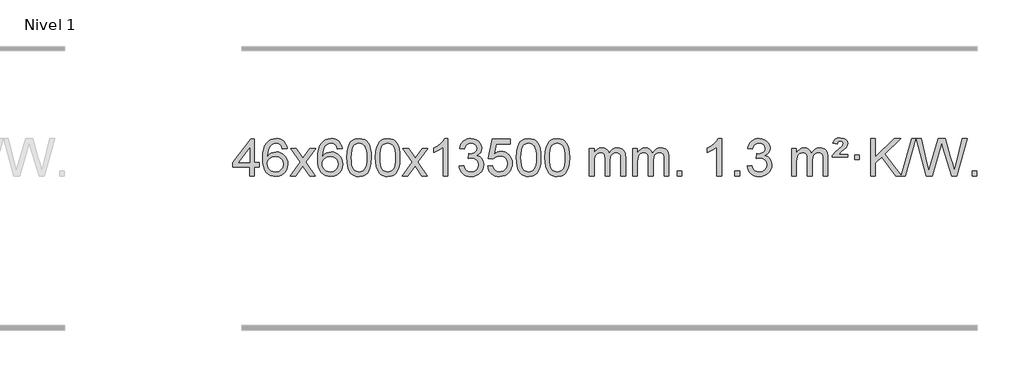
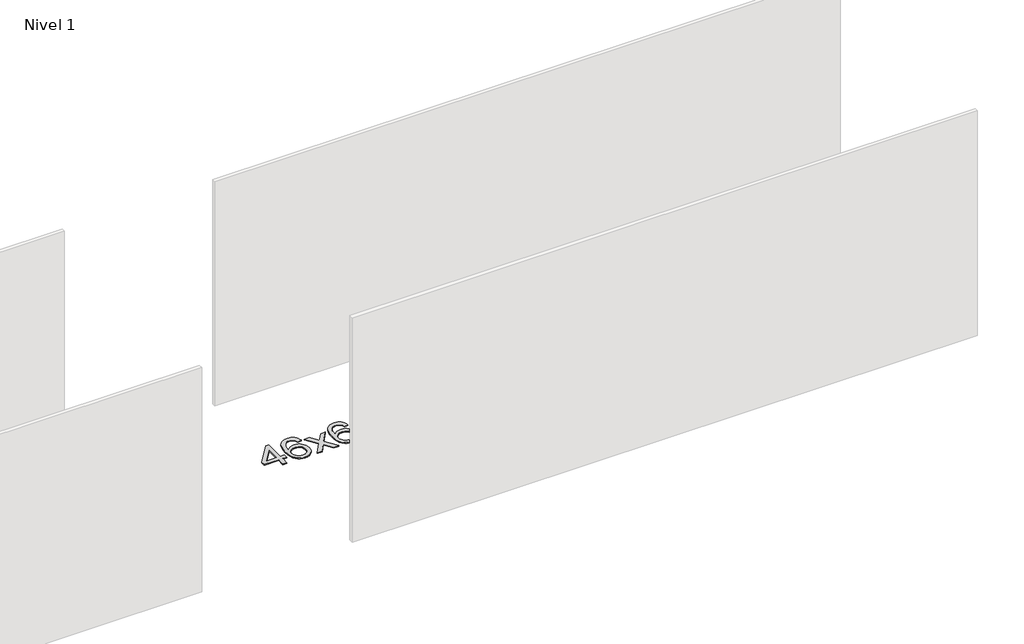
# One storey, part 12 of 12: 1 proxy.
"""IFC4 building model written with IfcOpenShell, lengths in millimetres."""

from ifc_helpers import new_model, si_unit, origin, origin_with_axes, place, context, project, spatial, polyline, outline, extrude, element, save

model = new_model("IFC4")

# Units and contexts
model_context = context("Model", 3, world=origin())
ifc_project = project(units=[si_unit("LENGTHUNIT", "METRE", prefix="MILLI")], contexts=[model_context])

# Site, building, storey
site = spatial("IfcSite", under=ifc_project)
building = spatial("IfcBuilding", under=site)
storey = spatial("IfcBuildingStorey", under=building, Name="Nivel 1", Elevation=0.0)

# Proxy
placement = place(None, origin())
element("IfcBuildingElementProxy", 1, Name="Texto de modelo 1", ObjectType="Texto de modelo 1", at=placement, inside=storey, context=model_context, shape_type="SweptSolid", body=[
    extrude(outline(polyline([(-1746.7519314, 2608.420547), (-1746.7519314, 2702.5983378), (-1928.8289935, 2702.5983378), (-1928.8289935, 2752.8264928), (-1734.1948926, 3003.9672682), (-1696.5237763, 3003.9672682), (-1696.5237763, 2752.8264928), (-1646.2956212, 2752.8264928), (-1646.2956212, 2702.5983378), (-1696.5237763, 2702.5983378), (-1696.5237763, 2608.420547), (-1746.7519314, 2608.420547)]), holes=[polyline([(-1746.7519314, 2752.8264928), (-1746.7519314, 2908.0236439), (-1867.0248183, 2752.8264928), (-1746.7519314, 2752.8264928)])]), origin_with_axes(), (0.0, 0.0, 1.0), 10.0),
    extrude(outline(polyline([(-1344.9266908, 2903.5109581), (-1395.1548459, 2897.2324387), (-1403.2482498, 2922.125787), (-1414.1866077, 2939.1219352), (-1436.970766, 2954.7937082), (-1464.5128647, 2960.0176325), (-1487.8611086, 2956.9764747), (-1509.8359265, 2947.8530012), (-1528.7082728, 2928.6372983), (-1544.1225284, 2902.1865829), (-1554.5335889, 2864.772984), (-1558.3963499, 2812.6686307), (-1538.2486793, 2836.1762902), (-1514.1033576, 2852.7432427), (-1487.3092857, 2862.565692), (-1459.215364, 2865.8398418), (-1435.0823051, 2863.601893), (-1412.8131816, 2856.8880466), (-1392.4079936, 2845.6983025), (-1373.8667411, 2830.0326609), (-1358.4586168, 2810.8230894), (-1347.4528138, 2789.0015557), (-1340.849332, 2764.5680599), (-1338.6481714, 2737.5226018), (-1342.7929752, 2701.5560055), (-1355.2273867, 2668.213634), (-1374.9213361, 2639.9357713), (-1400.8447541, 2619.1627013), (-1431.820418, 2606.397196), (-1466.6711057, 2602.1420276), (-1496.6136344, 2604.9624563), (-1523.6560268, 2613.4237421), (-1547.7982827, 2627.5258853), (-1569.0404022, 2647.2688857), (-1586.3584472, 2673.4866092), (-1598.7284793, 2707.0129217), (-1606.1504985, 2747.8478232), (-1608.6245049, 2795.9913136), (-1605.8776527, 2849.9657337), (-1597.637096, 2896.0306908), (-1583.9028349, 2934.1861851), (-1564.6748692, 2964.4322165), (-1543.8343542, 2984.4756538), (-1519.6706385, 2998.7923948), (-1492.1837221, 3007.3824394), (-1461.373605, 3010.2457876), (-1438.2399589, 3008.4738227), (-1417.301342, 3003.1579278), (-1398.5577543, 2994.2981031), (-1382.0091959, 2981.8943485), (-1368.1032565, 2966.3635969), (-1357.2875258, 2948.1227814), (-1349.5620039, 2927.1719017), (-1344.9266908, 2903.5109581)]), holes=[polyline([(-1558.3963499, 2738.3074168), (-1555.4900821, 2716.0505561), (-1546.7712788, 2694.7992395), (-1533.2332214, 2676.527767), (-1515.8691912, 2663.2104388), (-1494.9121802, 2655.0802467), (-1470.5951803, 2652.3701827), (-1437.4490126, 2657.9865145), (-1423.5338761, 2665.0069292), (-1411.3907046, 2674.8355099), (-1401.5406642, 2687.0737176), (-1394.504921, 2701.3230135), (-1388.8763265, 2735.8548701), (-1394.4313446, 2769.0010379), (-1401.3751173, 2782.6218688), (-1411.096399, 2794.274531), (-1423.2763587, 2803.6095366), (-1437.5961654, 2810.2773978), (-1472.6553195, 2815.6116867), (-1505.7524363, 2810.2773978), (-1533.4294251, 2794.274531), (-1544.3524547, 2782.7751529), (-1552.1546187, 2769.6141746), (-1556.8359171, 2754.7915958), (-1558.3963499, 2738.3074168)])]), origin_with_axes(), (0.0, 0.0, 1.0), 10.0),
    extrude(outline(polyline([(-1313.5340939, 2608.420547), (-1206.2106531, 2756.7505675), (-1307.2555745, 2903.5109581), (-1246.8248254, 2903.5109581), (-1198.0681983, 2832.877615), (-1175.3085655, 2799.5229808), (-1155.5900906, 2826.7952993), (-1100.0644348, 2903.5109581), (-1039.6336857, 2903.5109581), (-1145.7799041, 2756.7505675), (-1043.5577603, 2608.420547), (-1103.9885094, 2608.420547), (-1165.498379, 2697.5951426), (-1176.7800935, 2713.8800523), (-1253.1033448, 2608.420547), (-1313.5340939, 2608.420547)])), origin_with_axes(), (0.0, 0.0, 1.0), 10.0),
    extrude(outline(polyline([(-754.7458687, 2903.5109581), (-804.9740237, 2897.2324387), (-813.0674276, 2922.125787), (-824.0057856, 2939.1219352), (-846.7899439, 2954.7937082), (-874.3320426, 2960.0176325), (-897.6802865, 2956.9764747), (-919.6551044, 2947.8530012), (-938.5274507, 2928.6372983), (-953.9417063, 2902.1865829), (-964.3527668, 2864.772984), (-968.2155277, 2812.6686307), (-948.0678571, 2836.1762902), (-923.9225355, 2852.7432427), (-897.1284635, 2862.565692), (-869.0345418, 2865.8398418), (-844.9014829, 2863.601893), (-822.6323595, 2856.8880466), (-802.2271715, 2845.6983025), (-783.6859189, 2830.0326609), (-768.2777947, 2810.8230894), (-757.2719917, 2789.0015557), (-750.6685099, 2764.5680599), (-748.4673493, 2737.5226018), (-752.6121531, 2701.5560055), (-765.0465645, 2668.213634), (-784.740514, 2639.9357713), (-810.6639319, 2619.1627013), (-841.6395959, 2606.397196), (-876.4902836, 2602.1420276), (-906.4328123, 2604.9624563), (-933.4752046, 2613.4237421), (-957.6174606, 2627.5258853), (-978.8595801, 2647.2688857), (-996.177625, 2673.4866092), (-1008.5476571, 2707.0129217), (-1015.9696764, 2747.8478232), (-1018.4436828, 2795.9913136), (-1015.6968306, 2849.9657337), (-1007.4562739, 2896.0306908), (-993.7220127, 2934.1861851), (-974.4940471, 2964.4322165), (-953.6535321, 2984.4756538), (-929.4898164, 2998.7923948), (-902.0029, 3007.3824394), (-871.1927829, 3010.2457876), (-848.0591367, 3008.4738227), (-827.1205198, 3003.1579278), (-808.3769322, 2994.2981031), (-791.8283738, 2981.8943485), (-777.9224344, 2966.3635969), (-767.1067037, 2948.1227814), (-759.3811818, 2927.1719017), (-754.7458687, 2903.5109581)]), holes=[polyline([(-968.2155277, 2738.3074168), (-965.30926, 2716.0505561), (-956.5904567, 2694.7992395), (-943.0523993, 2676.527767), (-925.6883691, 2663.2104388), (-904.7313581, 2655.0802467), (-880.4143582, 2652.3701827), (-847.2681904, 2657.9865145), (-833.353054, 2665.0069292), (-821.2098825, 2674.8355099), (-811.359842, 2687.0737176), (-804.3240989, 2701.3230135), (-798.6955043, 2735.8548701), (-804.2505225, 2769.0010379), (-811.1942951, 2782.6218688), (-820.9155769, 2794.274531), (-833.0955366, 2803.6095366), (-847.4153432, 2810.2773978), (-882.4744974, 2815.6116867), (-915.5716142, 2810.2773978), (-943.248603, 2794.274531), (-954.1716326, 2782.7751529), (-961.9737965, 2769.6141746), (-966.6550949, 2754.7915958), (-968.2155277, 2738.3074168)])]), origin_with_axes(), (0.0, 0.0, 1.0), 10.0),
    extrude(outline(polyline([(-704.5177136, 2806.0958057), (-700.8266309, 2870.4138412), (-689.7533828, 2921.7088541), (-671.408334, 2960.7656593), (-659.550271, 2975.9990395), (-645.901849, 2988.3690716), (-630.4170827, 2997.9401349), (-613.0499869, 3004.7766086), (-572.6688065, 3010.2457876), (-541.717668, 3007.008426), (-514.003891, 2997.2963414), (-490.8273253, 2981.4896783), (-473.4878206, 2959.9685816), (-460.3912216, 2932.9169922), (-449.9433729, 2900.5188512), (-443.1007678, 2859.3773814), (-440.8198994, 2806.0958057), (-444.4741939, 2742.1456523), (-455.4370774, 2690.9732667), (-473.6717616, 2651.8796734), (-485.5022334, 2636.6003078), (-499.1414584, 2624.1658964), (-514.6446188, 2614.5304538), (-532.066897, 2607.6479948), (-572.6688065, 2602.1420276), (-600.3335326, 2604.5332606), (-624.8589989, 2611.7069595), (-646.2452055, 2623.6631243), (-664.4921525, 2640.4017551), (-682.0033355, 2670.6600492), (-694.5113233, 2708.3618224), (-702.016116, 2753.5070745), (-704.5177136, 2806.0958057)]), holes=[polyline([(-654.2895585, 2806.1939076), (-652.8180305, 2762.5293805), (-648.4034466, 2727.1851178), (-641.0458067, 2700.1611196), (-630.7451108, 2681.4573858), (-618.2861739, 2668.7317344), (-604.4538109, 2659.6419835), (-589.2480218, 2654.1881329), (-572.6688065, 2652.3701827), (-556.0895913, 2654.1942643), (-540.8838021, 2659.6665089), (-527.0514391, 2668.7869167), (-514.5925022, 2681.5554876), (-504.2918063, 2700.2898783), (-496.9341664, 2727.3077451), (-492.5195825, 2762.6090882), (-491.0480545, 2806.1939076), (-492.4705316, 2848.7026722), (-496.7379627, 2883.4246011), (-503.8503479, 2910.3596945), (-513.8076873, 2929.5079524), (-526.0581577, 2942.8559375), (-540.0499363, 2952.3902125), (-555.7830229, 2958.1107775), (-573.2574177, 2960.0176325), (-589.7507938, 2958.3376381), (-604.6990656, 2953.2976548), (-618.1022329, 2944.8976825), (-629.9602959, 2933.1377214), (-640.6043483, 2912.291075), (-648.2072429, 2884.1848906), (-652.7689796, 2848.8191681), (-654.2895585, 2806.1939076)])]), origin_with_axes(), (0.0, 0.0, 1.0), 10.0),
    extrude(outline(polyline([(-396.8702638, 2806.0958057), (-393.1791811, 2870.4138412), (-382.105933, 2921.7088541), (-363.7608842, 2960.7656593), (-351.9028212, 2975.9990395), (-338.2543992, 2988.3690716), (-322.7696329, 2997.9401349), (-305.402537, 3004.7766086), (-265.0213567, 3010.2457876), (-234.0702182, 3007.008426), (-206.3564412, 2997.2963414), (-183.1798755, 2981.4896783), (-165.8403708, 2959.9685816), (-152.7437718, 2932.9169922), (-142.2959231, 2900.5188512), (-135.453318, 2859.3773814), (-133.1724496, 2806.0958057), (-136.8267441, 2742.1456523), (-147.7896275, 2690.9732667), (-166.0243118, 2651.8796734), (-177.8547836, 2636.6003078), (-191.4940086, 2624.1658964), (-206.997169, 2614.5304538), (-224.4194471, 2607.6479948), (-265.0213567, 2602.1420276), (-292.6860827, 2604.5332606), (-317.2115491, 2611.7069595), (-338.5977557, 2623.6631243), (-356.8447027, 2640.4017551), (-374.3558856, 2670.6600492), (-386.8638735, 2708.3618224), (-394.3686662, 2753.5070745), (-396.8702638, 2806.0958057)]), holes=[polyline([(-346.6421087, 2806.1939076), (-345.1705807, 2762.5293805), (-340.7559968, 2727.1851178), (-333.3983568, 2700.1611196), (-323.097661, 2681.4573858), (-310.6387241, 2668.7317344), (-296.8063611, 2659.6419835), (-281.6005719, 2654.1881329), (-265.0213567, 2652.3701827), (-248.4421414, 2654.1942643), (-233.2363523, 2659.6665089), (-219.4039893, 2668.7869167), (-206.9450524, 2681.5554876), (-196.6443565, 2700.2898783), (-189.2867166, 2727.3077451), (-184.8721327, 2762.6090882), (-183.4006047, 2806.1939076), (-184.8230817, 2848.7026722), (-189.0905129, 2883.4246011), (-196.2028981, 2910.3596945), (-206.1602375, 2929.5079524), (-218.4107079, 2942.8559375), (-232.4024864, 2952.3902125), (-248.1355731, 2958.1107775), (-265.6099679, 2960.0176325), (-282.103344, 2958.3376381), (-297.0516157, 2953.2976548), (-310.4547831, 2944.8976825), (-322.3128461, 2933.1377214), (-332.9568985, 2912.291075), (-340.559793, 2884.1848906), (-345.1215298, 2848.8191681), (-346.6421087, 2806.1939076)])]), origin_with_axes(), (0.0, 0.0, 1.0), 10.0),
    extrude(outline(polyline([(-108.0583721, 2608.420547), (-0.7349313, 2756.7505675), (-101.7798527, 2903.5109581), (-41.3491036, 2903.5109581), (7.4075235, 2832.877615), (30.1671563, 2799.5229808), (49.8856312, 2826.7952993), (105.411287, 2903.5109581), (165.8420361, 2903.5109581), (59.6958177, 2756.7505675), (161.9179615, 2608.420547), (101.4872124, 2608.420547), (39.9773428, 2697.5951426), (28.6956283, 2713.8800523), (-47.627623, 2608.420547), (-108.0583721, 2608.420547)])), origin_with_axes(), (0.0, 0.0, 1.0), 10.0),
    extrude(outline(polyline([(381.6661399, 2608.420547), (331.4379848, 2608.420547), (331.4379848, 2921.5617013), (310.4687111, 2904.6023413), (283.8585801, 2887.6675068), (230.9816747, 2862.3081746), (230.9816747, 2909.7894775), (270.4308873, 2931.2492605), (304.6071247, 2956.780271), (331.5483494, 2983.9299622), (349.2925243, 3010.2457876), (381.6661399, 3010.2457876), (381.6661399, 2608.420547)])), origin_with_axes(), (0.0, 0.0, 1.0), 10.0),
    extrude(outline(polyline([(500.9580082, 2715.1553765), (551.1861633, 2721.4338959), (562.4310896, 2689.8696207), (578.8999403, 2668.5569905), (601.4020556, 2656.4168846), (630.7467761, 2652.3701827), (665.1805309, 2657.9374636), (679.4543523, 2664.8965646), (691.7661364, 2674.6393061), (708.7622846, 2699.5571799), (714.4276673, 2729.7725545), (708.8113355, 2758.4550874), (691.9623401, 2781.7174922), (666.4558551, 2797.1317478), (634.8670545, 2802.269833), (599.6484848, 2796.7761285), (605.2402911, 2847.0042836), (613.2846441, 2846.4156724), (643.3773913, 2850.020916), (670.2818279, 2860.8366466), (681.3550759, 2869.0158897), (689.2645388, 2879.1326445), (694.0102165, 2891.1869112), (695.5921091, 2905.1786898), (691.0058469, 2926.8714648), (677.2470603, 2944.4684869), (656.2532611, 2956.1303461), (629.9619612, 2960.0176325), (603.6216103, 2956.0935579), (582.0882509, 2944.3213341), (566.367427, 2924.700961), (557.4646827, 2897.2324387), (507.2365276, 2903.5109581), (513.1900846, 2927.4907328), (522.0253838, 2948.6132907), (533.7424253, 2966.8786317), (548.3412092, 2982.286756), (565.3618828, 2994.5188323), (584.3445938, 3003.2560297), (605.289342, 3008.4983481), (628.1961276, 3010.2457876), (659.7726655, 3006.7999596), (688.7740295, 2996.4624755), (713.2259194, 2980.1530404), (731.1540353, 2958.7913592), (742.153707, 2934.1800537), (745.8202642, 2908.1217457), (742.337648, 2883.8415341), (731.8897993, 2861.8176653), (714.623871, 2843.0556835), (690.6870159, 2828.5611329), (722.1286637, 2815.8569414), (745.4278567, 2794.22548), (759.848831, 2764.8439714), (764.6558224, 2728.8896377), (762.2523267, 2703.4076782), (755.0418395, 2679.9368069), (743.024361, 2658.4770238), (726.1998911, 2639.028329), (705.7027326, 2622.8905722), (682.6671884, 2611.363603), (657.0932583, 2604.4474215), (628.9809425, 2602.1420276), (603.5725594, 2604.1101963), (580.4205192, 2610.0147023), (559.5248218, 2619.8555457), (540.8854674, 2633.6327264), (525.256614, 2650.5369041), (513.3924196, 2669.7587383), (505.2928844, 2691.2982292), (500.9580082, 2715.1553765)])), origin_with_axes(), (0.0, 0.0, 1.0), 10.0),
    extrude(outline(polyline([(808.605458, 2715.1553765), (858.8336131, 2721.4338959), (868.0551885, 2691.2798351), (884.1438944, 2669.6851619), (907.0261545, 2656.6989275), (936.6283924, 2652.3701827), (955.7582561, 2653.8754332), (972.631777, 2658.3911847), (987.2489549, 2665.9174372), (999.6097899, 2676.4541906), (1009.4383706, 2689.480279), (1016.4587853, 2704.4745359), (1022.0751171, 2740.3675559), (1016.8144046, 2774.1636486), (1010.2385139, 2788.0818507), (1001.032267, 2800.0134901), (989.165007, 2809.5845533), (974.606077, 2816.4210271), (937.4132073, 2821.8902061), (913.0471565, 2819.7074396), (893.3164188, 2813.1591401), (877.5588067, 2803.1282243), (865.1121325, 2790.4976092), (814.8839774, 2796.7761285), (858.8336131, 3003.9672682), (1053.467714, 3003.9672682), (1053.467714, 2953.7391131), (899.4477854, 2953.7391131), (877.9634769, 2843.080209), (895.6892577, 2855.7844006), (913.8442341, 2864.8588231), (932.4284063, 2870.3034766), (951.441774, 2872.1183612), (975.902861, 2869.8681496), (998.3712539, 2863.117515), (1018.8469526, 2851.8664573), (1037.3299572, 2836.1149766), (1052.6307825, 2816.8256973), (1063.5599434, 2794.961244), (1070.11744, 2770.5216168), (1072.3032722, 2743.5068156), (1070.3351035, 2717.4852958), (1064.4305975, 2693.2786606), (1054.5897541, 2670.8869098), (1040.8125734, 2650.3100435), (1019.9414015, 2629.2365366), (995.5876135, 2614.1840316), (967.7512092, 2605.1525286), (936.4321886, 2602.1420276), (910.5118364, 2604.0764738), (887.0992131, 2609.8798123), (866.1943187, 2619.552043), (847.7971533, 2633.0931662), (832.4901966, 2649.8287312), (820.8559285, 2669.084288), (812.894349, 2690.8598364), (808.605458, 2715.1553765)])), origin_with_axes(), (0.0, 0.0, 1.0), 10.0),
    extrude(outline(polyline([(1116.2529079, 2806.0958057), (1119.9439906, 2870.4138412), (1131.0172386, 2921.7088541), (1149.3622874, 2960.7656593), (1161.2203504, 2975.9990395), (1174.8687724, 2988.3690716), (1190.3535388, 2997.9401349), (1207.7206346, 3004.7766086), (1248.1018149, 3010.2457876), (1279.0529535, 3007.008426), (1306.7667304, 2997.2963414), (1329.9432961, 2981.4896783), (1347.2828008, 2959.9685816), (1360.3793999, 2932.9169922), (1370.8272485, 2900.5188512), (1377.6698537, 2859.3773814), (1379.950722, 2806.0958057), (1376.2964275, 2742.1456523), (1365.3335441, 2690.9732667), (1347.0988599, 2651.8796734), (1335.268388, 2636.6003078), (1321.6291631, 2624.1658964), (1306.1260026, 2614.5304538), (1288.7037245, 2607.6479948), (1248.1018149, 2602.1420276), (1220.4370889, 2604.5332606), (1195.9116226, 2611.7069595), (1174.5254159, 2623.6631243), (1156.278469, 2640.4017551), (1138.767286, 2670.6600492), (1126.2592981, 2708.3618224), (1118.7545054, 2753.5070745), (1116.2529079, 2806.0958057)]), holes=[polyline([(1166.481063, 2806.1939076), (1167.9525909, 2762.5293805), (1172.3671749, 2727.1851178), (1179.7248148, 2700.1611196), (1190.0255106, 2681.4573858), (1202.4844475, 2668.7317344), (1216.3168106, 2659.6419835), (1231.5225997, 2654.1881329), (1248.1018149, 2652.3701827), (1264.6810302, 2654.1942643), (1279.8868193, 2659.6665089), (1293.7191824, 2668.7869167), (1306.1781193, 2681.5554876), (1316.4788151, 2700.2898783), (1323.836455, 2727.3077451), (1328.251039, 2762.6090882), (1329.7225669, 2806.1939076), (1328.3000899, 2848.7026722), (1324.0326588, 2883.4246011), (1316.9202735, 2910.3596945), (1306.9629342, 2929.5079524), (1294.7124637, 2942.8559375), (1280.7206852, 2952.3902125), (1264.9875985, 2958.1107775), (1247.5132038, 2960.0176325), (1231.0198276, 2958.3376381), (1216.0715559, 2953.2976548), (1202.6683885, 2944.8976825), (1190.8103256, 2933.1377214), (1180.1662732, 2912.291075), (1172.5633786, 2884.1848906), (1168.0016419, 2848.8191681), (1166.481063, 2806.1939076)])]), origin_with_axes(), (0.0, 0.0, 1.0), 10.0),
    extrude(outline(polyline([(1423.9003577, 2806.0958057), (1427.5914404, 2870.4138412), (1438.6646885, 2921.7088541), (1457.0097373, 2960.7656593), (1468.8678003, 2975.9990395), (1482.5162223, 2988.3690716), (1498.0009886, 2997.9401349), (1515.3680844, 3004.7766086), (1555.7492648, 3010.2457876), (1586.7004033, 3007.008426), (1614.4141803, 2997.2963414), (1637.590746, 2981.4896783), (1654.9302507, 2959.9685816), (1668.0268497, 2932.9169922), (1678.4746984, 2900.5188512), (1685.3173035, 2859.3773814), (1687.5981719, 2806.0958057), (1683.9438774, 2742.1456523), (1672.9809939, 2690.9732667), (1654.7463097, 2651.8796734), (1642.9158379, 2636.6003078), (1629.2766129, 2624.1658964), (1613.7734525, 2614.5304538), (1596.3511743, 2607.6479948), (1555.7492648, 2602.1420276), (1528.0845387, 2604.5332606), (1503.5590724, 2611.7069595), (1482.1728657, 2623.6631243), (1463.9259188, 2640.4017551), (1446.4147358, 2670.6600492), (1433.906748, 2708.3618224), (1426.4019553, 2753.5070745), (1423.9003577, 2806.0958057)]), holes=[polyline([(1474.1285128, 2806.1939076), (1475.6000408, 2762.5293805), (1480.0146247, 2727.1851178), (1487.3722646, 2700.1611196), (1497.6729605, 2681.4573858), (1510.1318974, 2668.7317344), (1523.9642604, 2659.6419835), (1539.1700495, 2654.1881329), (1555.7492648, 2652.3701827), (1572.32848, 2654.1942643), (1587.5342692, 2659.6665089), (1601.3666322, 2668.7869167), (1613.8255691, 2681.5554876), (1624.126265, 2700.2898783), (1631.4839049, 2727.3077451), (1635.8984888, 2762.6090882), (1637.3700168, 2806.1939076), (1635.9475397, 2848.7026722), (1631.6801086, 2883.4246011), (1624.5677233, 2910.3596945), (1614.610384, 2929.5079524), (1602.3599136, 2942.8559375), (1588.368135, 2952.3902125), (1572.6350484, 2958.1107775), (1555.1606536, 2960.0176325), (1538.6672775, 2958.3376381), (1523.7190057, 2953.2976548), (1510.3158384, 2944.8976825), (1498.4577754, 2933.1377214), (1487.813723, 2912.291075), (1480.2108284, 2884.1848906), (1475.6490917, 2848.8191681), (1474.1285128, 2806.1939076)])]), origin_with_axes(), (0.0, 0.0, 1.0), 10.0),
    extrude(outline(polyline([(1901.0678309, 2608.420547), (1901.0678309, 2903.5109581), (1951.295986, 2903.5109581), (1951.295986, 2854.9505347), (1966.4036733, 2877.2564463), (1985.8278426, 2894.7308411), (2008.9063064, 2906.0248184), (2034.9768772, 2909.7894775), (2062.9113833, 2905.951242), (2085.3031341, 2894.4365355), (2102.0295022, 2876.0056476), (2112.9678601, 2851.4188676), (2131.2761208, 2876.9560094), (2152.1595554, 2895.196825), (2175.6181639, 2906.1413143), (2201.6519464, 2909.7894775), (2221.7597632, 2908.2719642), (2239.4089019, 2903.7194245), (2254.5993626, 2896.1318584), (2267.3311453, 2885.5092658), (2277.3957836, 2871.7290194), (2284.5848109, 2854.6684918), (2288.8982273, 2834.3276832), (2290.3360328, 2810.7065934), (2290.3360328, 2608.420547), (2240.1078777, 2608.420547), (2240.1078777, 2789.124183), (2238.942918, 2814.1769469), (2235.4480391, 2831.0627305), (2228.8997396, 2842.6264879), (2218.5745182, 2851.7131732), (2205.2939782, 2857.5992851), (2189.8797226, 2859.5613224), (2162.6687177, 2854.5336018), (2140.4854334, 2839.45044), (2131.8800604, 2827.8805512), (2125.7333654, 2813.2817674), (2120.8160094, 2774.9975144), (2120.8160094, 2608.420547), (2070.5878543, 2608.420547), (2070.5878543, 2794.7159894), (2067.6815865, 2823.1164794), (2058.9627833, 2843.3745146), (2043.6221041, 2855.5146204), (2020.8502086, 2859.5613224), (2001.4996156, 2856.8635211), (1983.6696016, 2848.7701172), (1968.9543218, 2835.4773144), (1958.9479315, 2817.1813165), (1953.2089724, 2791.7974589), (1951.295986, 2757.2410768), (1951.295986, 2608.420547), (1901.0678309, 2608.420547)])), origin_with_axes(), (0.0, 0.0, 1.0), 10.0),
    extrude(outline(polyline([(2365.6782654, 2608.420547), (2365.6782654, 2903.5109581), (2415.9064204, 2903.5109581), (2415.9064204, 2854.9505347), (2431.0141077, 2877.2564463), (2450.4382771, 2894.7308411), (2473.5167409, 2906.0248184), (2499.5873116, 2909.7894775), (2527.5218178, 2905.951242), (2549.9135685, 2894.4365355), (2566.6399366, 2876.0056476), (2577.5782946, 2851.4188676), (2595.8865552, 2876.9560094), (2616.7699898, 2895.196825), (2640.2285984, 2906.1413143), (2666.2623809, 2909.7894775), (2686.3701976, 2908.2719642), (2704.0193363, 2903.7194245), (2719.209797, 2896.1318584), (2731.9415798, 2885.5092658), (2742.006218, 2871.7290194), (2749.1952453, 2854.6684918), (2753.5086617, 2834.3276832), (2754.9464672, 2810.7065934), (2754.9464672, 2608.420547), (2704.7183121, 2608.420547), (2704.7183121, 2789.124183), (2703.5533525, 2814.1769469), (2700.0584735, 2831.0627305), (2693.510174, 2842.6264879), (2683.1849527, 2851.7131732), (2669.9044126, 2857.5992851), (2654.490157, 2859.5613224), (2627.2791521, 2854.5336018), (2605.0958678, 2839.45044), (2596.4904948, 2827.8805512), (2590.3437998, 2813.2817674), (2585.4264438, 2774.9975144), (2585.4264438, 2608.420547), (2535.1982887, 2608.420547), (2535.1982887, 2794.7159894), (2532.292021, 2823.1164794), (2523.5732177, 2843.3745146), (2508.2325385, 2855.5146204), (2485.460643, 2859.5613224), (2466.11005, 2856.8635211), (2448.280036, 2848.7701172), (2433.5647562, 2835.4773144), (2423.5583659, 2817.1813165), (2417.8194068, 2791.7974589), (2415.9064204, 2757.2410768), (2415.9064204, 2608.420547), (2365.6782654, 2608.420547)])), origin_with_axes(), (0.0, 0.0, 1.0), 10.0),
    extrude(outline(polyline([(2842.8457386, 2608.420547), (2842.8457386, 2658.6487021), (2893.0738936, 2658.6487021), (2893.0738936, 2608.420547), (2842.8457386, 2608.420547)])), origin_with_axes(), (0.0, 0.0, 1.0), 10.0),
    extrude(outline(polyline([(3320.0132118, 2608.420547), (3269.7850567, 2608.420547), (3269.7850567, 2921.5617013), (3248.815783, 2904.6023413), (3222.205652, 2887.6675068), (3169.3287466, 2862.3081746), (3169.3287466, 2909.7894775), (3208.7779592, 2931.2492605), (3242.9541965, 2956.780271), (3269.8954213, 2983.9299622), (3287.6395962, 3010.2457876), (3320.0132118, 3010.2457876), (3320.0132118, 2608.420547)])), origin_with_axes(), (0.0, 0.0, 1.0), 10.0),
    extrude(outline(polyline([(3464.4191576, 2608.420547), (3464.4191576, 2658.6487021), (3514.6473127, 2658.6487021), (3514.6473127, 2608.420547), (3464.4191576, 2608.420547)])), origin_with_axes(), (0.0, 0.0, 1.0), 10.0),
    extrude(outline(polyline([(3596.2680647, 2715.1553765), (3646.4962198, 2721.4338959), (3657.7411461, 2689.8696207), (3674.2099967, 2668.5569905), (3696.7121121, 2656.4168846), (3726.0568326, 2652.3701827), (3760.4905873, 2657.9374636), (3774.7644088, 2664.8965646), (3787.0761929, 2674.6393061), (3804.072341, 2699.5571799), (3809.7377238, 2729.7725545), (3804.121392, 2758.4550874), (3787.2723966, 2781.7174922), (3761.7659116, 2797.1317478), (3730.1771109, 2802.269833), (3694.9585413, 2796.7761285), (3700.5503476, 2847.0042836), (3708.5947006, 2846.4156724), (3738.6874478, 2850.020916), (3765.5918843, 2860.8366466), (3776.6651324, 2869.0158897), (3784.5745953, 2879.1326445), (3789.320273, 2891.1869112), (3790.9021656, 2905.1786898), (3786.3159034, 2926.8714648), (3772.5571168, 2944.4684869), (3751.5633176, 2956.1303461), (3725.2720177, 2960.0176325), (3698.9316668, 2956.0935579), (3677.3983074, 2944.3213341), (3661.6774834, 2924.700961), (3652.7747392, 2897.2324387), (3602.5465841, 2903.5109581), (3608.500141, 2927.4907328), (3617.3354403, 2948.6132907), (3629.0524818, 2966.8786317), (3643.6512657, 2982.286756), (3660.6719393, 2994.5188323), (3679.6546503, 3003.2560297), (3700.5993985, 3008.4983481), (3723.5061841, 3010.2457876), (3755.082722, 3006.7999596), (3784.084086, 2996.4624755), (3808.5359759, 2980.1530404), (3826.4640918, 2958.7913592), (3837.4637635, 2934.1800537), (3841.1303207, 2908.1217457), (3837.6477045, 2883.8415341), (3827.1998558, 2861.8176653), (3809.9339275, 2843.0556835), (3785.9970723, 2828.5611329), (3817.4387202, 2815.8569414), (3840.7379132, 2794.22548), (3855.1588874, 2764.8439714), (3859.9658788, 2728.8896377), (3857.5623831, 2703.4076782), (3850.351896, 2679.9368069), (3838.3344175, 2658.4770238), (3821.5099476, 2639.028329), (3801.0127891, 2622.8905722), (3777.9772448, 2611.363603), (3752.4033148, 2604.4474215), (3724.290999, 2602.1420276), (3698.8826159, 2604.1101963), (3675.7305757, 2610.0147023), (3654.8348783, 2619.8555457), (3636.1955239, 2633.6327264), (3620.5666705, 2650.5369041), (3608.7024761, 2669.7587383), (3600.6029409, 2691.2982292), (3596.2680647, 2715.1553765)])), origin_with_axes(), (0.0, 0.0, 1.0), 10.0),
    extrude(outline(polyline([(4073.4355379, 2608.420547), (4073.4355379, 2903.5109581), (4123.663693, 2903.5109581), (4123.663693, 2854.9505347), (4138.7713803, 2877.2564463), (4158.1955496, 2894.7308411), (4181.2740134, 2906.0248184), (4207.3445842, 2909.7894775), (4235.2790903, 2905.951242), (4257.6708411, 2894.4365355), (4274.3972091, 2876.0056476), (4285.3355671, 2851.4188676), (4303.6438278, 2876.9560094), (4324.5272623, 2895.196825), (4347.9858709, 2906.1413143), (4374.0196534, 2909.7894775), (4394.1274702, 2908.2719642), (4411.7766089, 2903.7194245), (4426.9670696, 2896.1318584), (4439.6988523, 2885.5092658), (4449.7634906, 2871.7290194), (4456.9525179, 2854.6684918), (4461.2659343, 2834.3276832), (4462.7037397, 2810.7065934), (4462.7037397, 2608.420547), (4412.4755847, 2608.420547), (4412.4755847, 2789.124183), (4411.310625, 2814.1769469), (4407.8157461, 2831.0627305), (4401.2674465, 2842.6264879), (4390.9422252, 2851.7131732), (4377.6616852, 2857.5992851), (4362.2474296, 2859.5613224), (4335.0364247, 2854.5336018), (4312.8531404, 2839.45044), (4304.2477674, 2827.8805512), (4298.1010724, 2813.2817674), (4293.1837164, 2774.9975144), (4293.1837164, 2608.420547), (4242.9555613, 2608.420547), (4242.9555613, 2794.7159894), (4240.0492935, 2823.1164794), (4231.3304902, 2843.3745146), (4215.989811, 2855.5146204), (4193.2179155, 2859.5613224), (4173.8673226, 2856.8635211), (4156.0373086, 2848.7701172), (4141.3220287, 2835.4773144), (4131.3156385, 2817.1813165), (4125.5766794, 2791.7974589), (4123.663693, 2757.2410768), (4123.663693, 2608.420547), (4073.4355379, 2608.420547)])), origin_with_axes(), (0.0, 0.0, 1.0), 10.0),
    extrude(outline(polyline([(4506.6533754, 2809.3331673), (4510.4793482, 2825.1520931), (4518.8180067, 2841.0200698), (4540.3268407, 2866.1586728), (4572.2835234, 2893.8969753), (4616.4293628, 2931.273786), (4623.5662735, 2942.8007552), (4625.9452437, 2954.6220299), (4624.0567828, 2966.7130848), (4618.3914001, 2976.4987459), (4609.022672, 2982.973469), (4596.0241748, 2985.1317101), (4583.5897634, 2983.5130293), (4574.73607, 2978.656987), (4568.3103978, 2969.1901569), (4563.1600499, 2953.7391131), (4512.9318948, 2960.0176325), (4523.7721509, 2985.2298119), (4540.4004171, 3002.7900458), (4564.165594, 3013.0907417), (4596.4165822, 3016.524307), (4632.1992376, 3012.3917659), (4656.9454332, 2999.9941427), (4671.3664074, 2981.6613566), (4676.1733988, 2959.7233269), (4672.0776459, 2936.8165414), (4659.7903873, 2915.1850801), (4639.262572, 2895.3685032), (4602.7932035, 2867.3113697), (4577.1886166, 2840.7257642), (4676.1733988, 2840.7257642), (4676.1733988, 2809.3331673), (4506.6533754, 2809.3331673)])), origin_with_axes(), (0.0, 0.0, 1.0), 10.0),
    extrude(outline(polyline([(4751.5156314, 2784.2190898), (4751.5156314, 2834.4472448), (4801.7437865, 2834.4472448), (4801.7437865, 2784.2190898), (4751.5156314, 2784.2190898)])), origin_with_axes(), (0.0, 0.0, 1.0), 10.0),
    extrude(outline(polyline([(5192.3854144, 2608.420547), (5038.954097, 2811.0990009), (4971.2638099, 2746.5479735), (4971.2638099, 2608.420547), (4921.0356548, 2608.420547), (4921.0356548, 3010.2457876), (4971.2638099, 3010.2457876), (4971.2638099, 2813.5515475), (5177.2777272, 3010.2457876), (5247.5186628, 3010.2457876), (5074.5650741, 2845.0422463), (5249.218684, 2614.4650668), (5360.5320117, 3010.2457876), (5405.8550735, 3010.2457876), (5292.8417246, 2608.420547), (5253.7971822, 2608.420547), (5247.5186628, 2608.420547), (5192.3854144, 2608.420547)])), origin_with_axes(), (0.0, 0.0, 1.0), 10.0),
    extrude(outline(polyline([(5520.3399504, 2608.420547), (5410.7601668, 3010.2457876), (5462.5579517, 3010.2457876), (5526.1279605, 2746.155566), (5545.7483335, 2664.6329159), (5566.7421327, 2736.7377869), (5646.4008474, 3010.2457876), (5721.056367, 3010.2457876), (5778.9364675, 2811.9819177), (5803.731714, 2738.4055186), (5822.0031864, 2664.6329159), (5841.0349483, 2743.8011212), (5905.1935683, 3010.2457876), (5956.9913532, 3010.2457876), (5847.3134677, 2608.420547), (5793.6517474, 2608.420547), (5697.3157155, 2918.4224416), (5683.87576, 2961.6853642), (5668.7680727, 2909.5932737), (5580.9669032, 2608.420547), (5520.3399504, 2608.420547)])), origin_with_axes(), (0.0, 0.0, 1.0), 10.0),
    extrude(outline(polyline([(6013.4980277, 2608.420547), (6013.4980277, 2658.6487021), (6063.7261827, 2658.6487021), (6063.7261827, 2608.420547), (6013.4980277, 2608.420547)])), origin_with_axes(), (0.0, 0.0, 1.0), 10.0),
])

save(model, "model.ifc")
